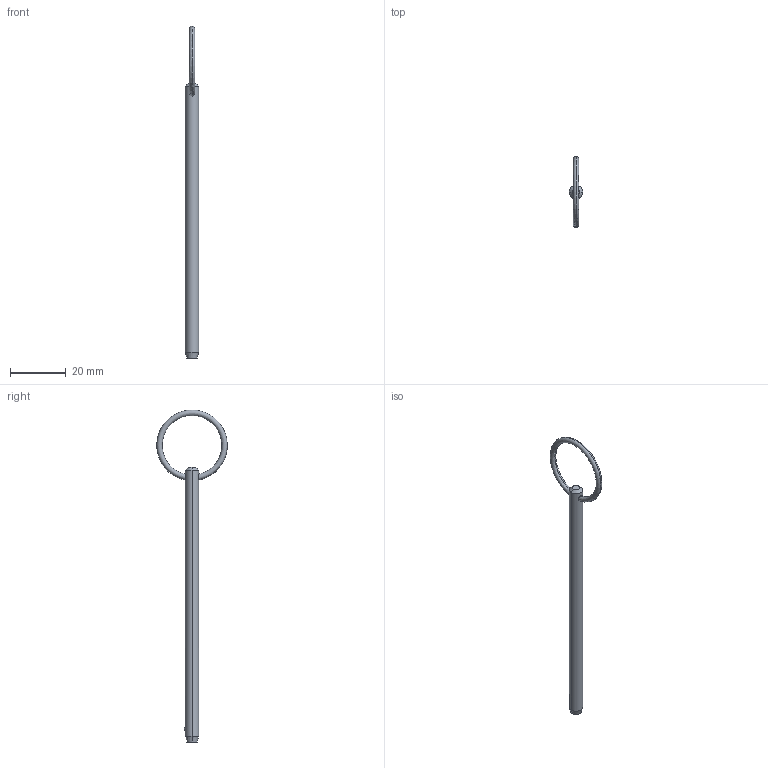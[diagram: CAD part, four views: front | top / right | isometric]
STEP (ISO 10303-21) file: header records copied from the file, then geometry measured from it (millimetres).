
FILE_DESCRIPTION (( 'STEP AP203' ), '1' );
FILE_NAME ('P1250.018-350.step', '2019-07-29T19:36:39', ( '' ), ( '' ), 'SwSTEP 2.0', 'SolidWorks 2017', '' );
FILE_SCHEMA (( 'CONFIG_CONTROL_DESIGN' ));
Length unit declared in the file: millimetre
Products named in the file (1): P1250.018-350
Bounding box: 4.76 x 25.4 x 119.38 mm (x, y, z)
Volume: 1959.3 mm3; surface area: 1919.5 mm2
Topology: 1 solids, 1 shells, 12 faces, 28 edges, 17 vertices
Faces by surface type: cone 4, torus 2, sphere 2, cylinder 2, plane 2
Entity records: 471 total; most frequent: CARTESIAN_POINT 138, DIRECTION 56, ORIENTED_EDGE 48, AXIS2_PLACEMENT_3D 25, EDGE_CURVE 24, EDGE_LOOP 15, VERTEX_POINT 15, ADVANCED_FACE 12
